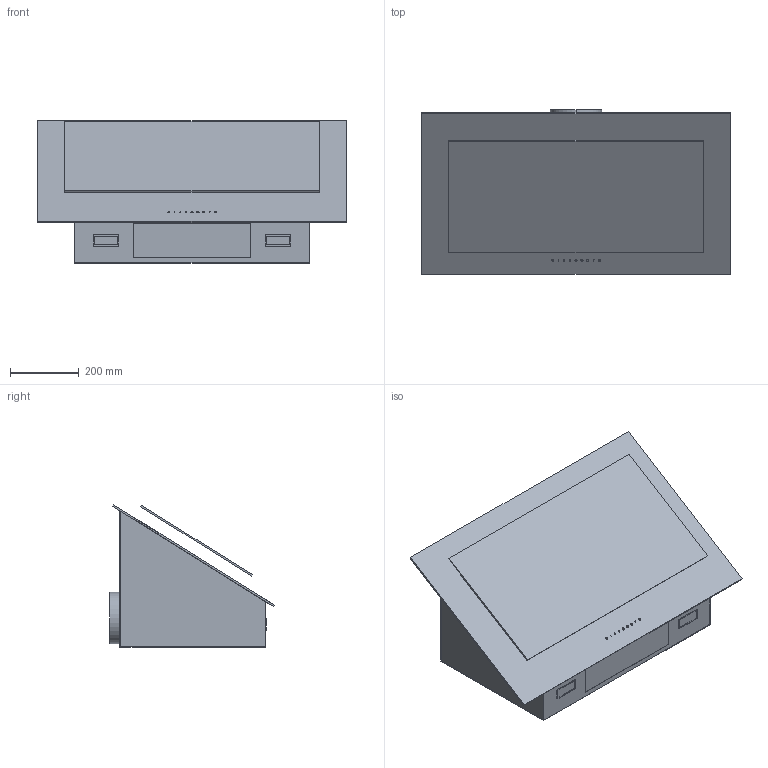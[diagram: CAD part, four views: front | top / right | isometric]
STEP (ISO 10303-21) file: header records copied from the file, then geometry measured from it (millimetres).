
FILE_DESCRIPTION (( 'STEP AP214' ), '1' );
FILE_NAME ('KV194B3.STEP', '2023-10-11T11:47:20', ( '' ), ( '' ), 'SwSTEP 2.0', 'SolidWorks 2023', '' );
FILE_SCHEMA (( 'AUTOMOTIVE_DESIGN' ));
Length unit declared in the file: millimetre
Products named in the file (1): KV194B3
Bounding box: 895 x 478.72 x 413.46 mm (x, y, z)
Volume: 4975240.9 mm3; surface area: 3313319.4 mm2
Topology: 3 solids, 3 shells, 352 faces, 933 edges, 622 vertices
Faces by surface type: plane 259, cylinder 93
Entity records: 10908 total; most frequent: CARTESIAN_POINT 1908, ORIENTED_EDGE 1866, DIRECTION 1825, EDGE_CURVE 933, VECTOR 747, LINE 747, VERTEX_POINT 622, AXIS2_PLACEMENT_3D 539
